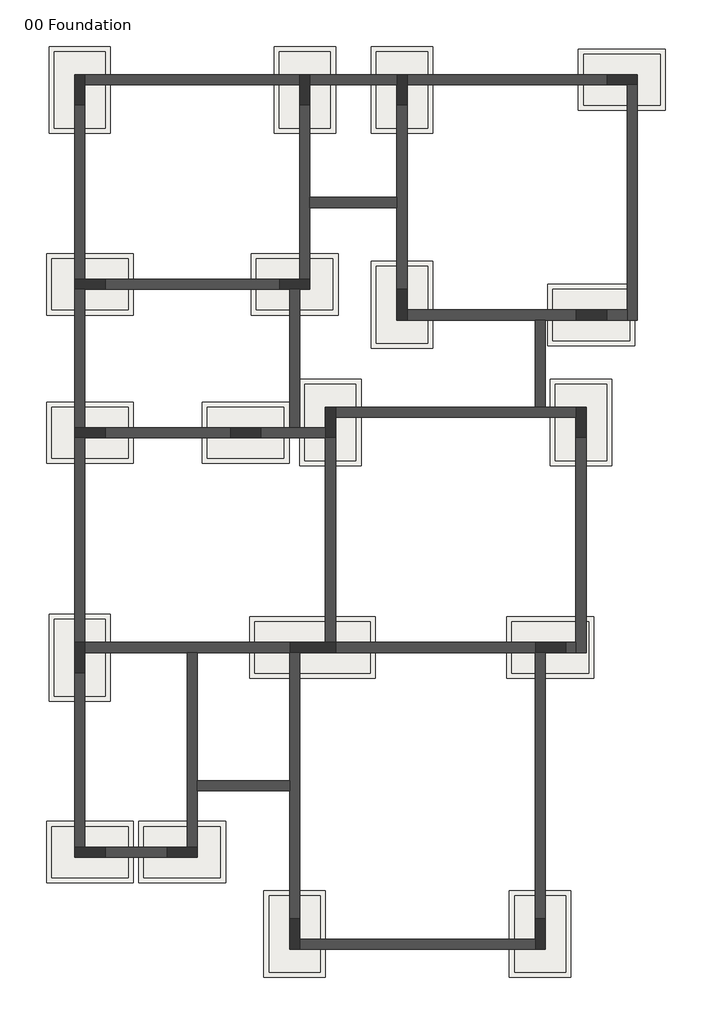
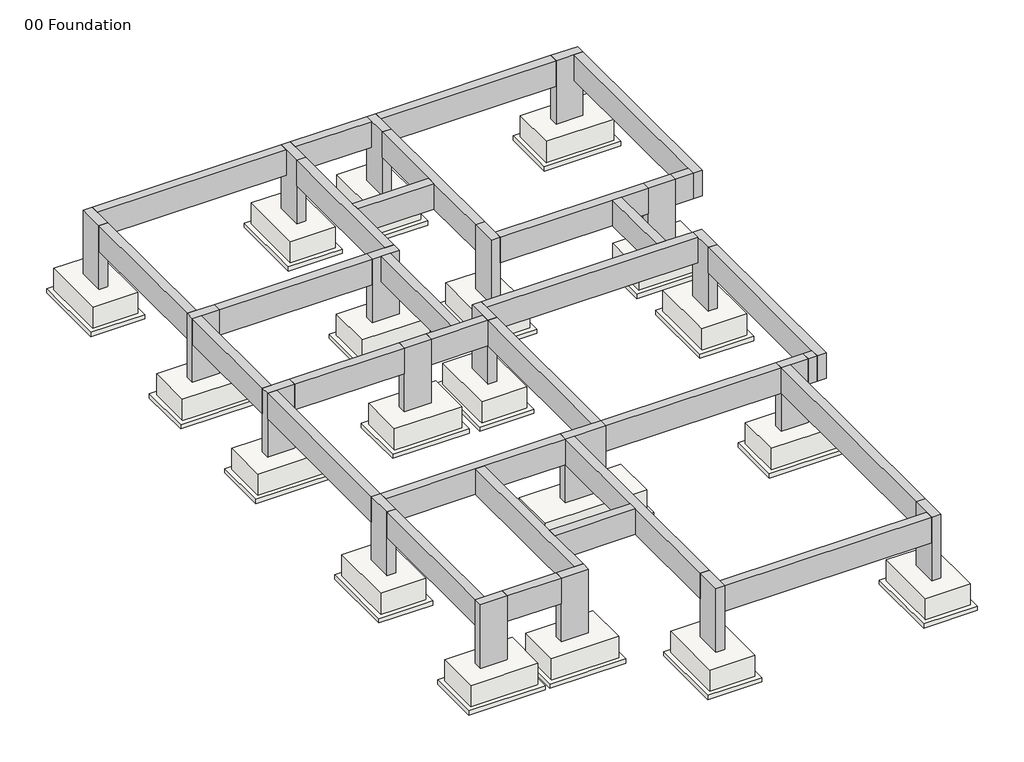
# One storey: 38 slabs, 30 beams, 19 columns.
"""IFC4 building model written with IfcOpenShell, lengths in millimetres."""

from ifc_helpers import new_model, si_unit, frame, origin, place, context, project, spatial, polyline, outline, extrude, faceted_brep, element, save

model = new_model("IFC4")

# Units and contexts
model_context = context("Model", 3, world=origin())
ifc_project = project(units=[si_unit("LENGTHUNIT", "METRE", prefix="MILLI")], contexts=[model_context])

# Site, building, storey
site = spatial("IfcSite", under=ifc_project)
building = spatial("IfcBuilding", under=site)
storey = spatial("IfcBuildingStorey", under=building, Name="00 Foundation", Elevation=-1500.0)

# Beams
placement = place(None, origin())
element("IfcBeam", 1, ObjectType="M_Concrete-Rectangular Beam : GB1- 20 x 60 cm", at=placement, inside=storey, context=model_context, shape_type="SweptSolid", body=[
    extrude(outline(polyline([(698.0737011, 8044.9958345), (698.0737011, 8244.9958345), (4598.0737011, 8244.9958345), (4598.0737011, 8044.9958345), (698.0737011, 8044.9958345)])), frame((0.0, 0.0, -600.0), z_axis=(0.0, 0.0, 1.0), x_axis=(1.0, 0.0, 0.0)), (0.0, 0.0, 1.0), 600.0),
])
element("IfcBeam", 2, ObjectType="M_Concrete-Rectangular Beam : GB1- 20 x 60 cm", at=placement, inside=storey, context=model_context, shape_type="SweptSolid", body=[
    extrude(outline(polyline([(-1201.9262989, 8044.9958345), (-1201.9262989, 8244.9958345), (498.0737011, 8244.9958345), (498.0737011, 8044.9958345), (-1201.9262989, 8044.9958345)])), frame((0.0, 0.0, -600.0), z_axis=(0.0, 0.0, 1.0), x_axis=(1.0, 0.0, 0.0)), (0.0, 0.0, 1.0), 600.0),
])
element("IfcBeam", 3, ObjectType="M_Concrete-Rectangular Beam : GB1- 20 x 60 cm", at=placement, inside=storey, context=model_context, shape_type="SweptSolid", body=[
    extrude(outline(polyline([(-5601.9262989, 8044.9958345), (-5601.9262989, 8244.9958345), (-1401.9262989, 8244.9958345), (-1401.9262989, 8044.9958345), (-5601.9262989, 8044.9958345)])), frame((0.0, 0.0, -600.0), z_axis=(0.0, 0.0, 1.0), x_axis=(1.0, 0.0, 0.0)), (0.0, 0.0, 1.0), 600.0),
])
element("IfcBeam", 4, ObjectType="M_Concrete-Rectangular Beam : GB1- 20 x 60 cm", at=placement, inside=storey, context=model_context, shape_type="SweptSolid", body=[
    extrude(outline(polyline([(-5801.9262989, 7644.9958345), (-5601.9262989, 7644.9958345), (-5601.9262989, 4244.9958345), (-5801.9262989, 4244.9958345), (-5801.9262989, 7644.9958345)])), frame((0.0, 0.0, -600.0), z_axis=(0.0, 0.0, 1.0), x_axis=(1.0, 0.0, 0.0)), (0.0, 0.0, 1.0), 600.0),
])
element("IfcBeam", 5, ObjectType="M_Concrete-Rectangular Beam : GB1- 20 x 60 cm", at=placement, inside=storey, context=model_context, shape_type="SweptSolid", body=[
    extrude(outline(polyline([(-1801.9262989, 4244.9958345), (-1801.9262989, 4044.9958345), (-5201.9262989, 4044.9958345), (-5201.9262989, 4244.9958345), (-1801.9262989, 4244.9958345)])), frame((0.0, 0.0, -600.0), z_axis=(0.0, 0.0, 1.0), x_axis=(1.0, 0.0, 0.0)), (0.0, 0.0, 1.0), 600.0),
])
element("IfcBeam", 6, ObjectType="M_Concrete-Rectangular Beam : GB1- 20 x 60 cm", at=placement, inside=storey, context=model_context, shape_type="SweptSolid", body=[
    extrude(outline(polyline([(-2759.8125017, 1344.9958345), (-2759.8125017, 1144.9958345), (-5201.9262989, 1144.9958345), (-5201.9262989, 1344.9958345), (-2759.8125017, 1344.9958345)])), frame((0.0, 0.0, -600.0), z_axis=(0.0, 0.0, 1.0), x_axis=(1.0, 0.0, 0.0)), (0.0, 0.0, 1.0), 600.0),
])
element("IfcBeam", 7, ObjectType="M_Concrete-Rectangular Beam : GB1- 20 x 60 cm", at=placement, inside=storey, context=model_context, shape_type="Brep", body=[
    faceted_brep([(-901.9262989, 1144.9958345, 0.0), (-901.9262989, 1344.9958345, 0.0), (-1401.9262989, 1344.9958345, 0.0), (-1601.9262989, 1344.9958345, 0.0), (-2159.8125017, 1344.9958345, 0.0), (-2159.8125017, 1144.9958345, 0.0), (-901.9262989, 1144.9958345, -600.0), (-2159.8125017, 1144.9958345, -600.0), (-901.9262989, 1344.9958345, -600.0), (-2159.8125017, 1344.9958345, -600.0), (-1601.9262989, 1344.9958345, -600.0), (-1401.9262989, 1344.9958345, -600.0)], [[[0, 1, 2, 3, 4, 5]], [[6, 0, 5, 7]], [[8, 6, 7, 9, 10, 11]], [[1, 8, 11, 10, 9, 4, 3, 2]], [[1, 0, 6, 8]], [[5, 4, 9, 7]]]),
])
element("IfcBeam", 8, ObjectType="M_Concrete-Rectangular Beam : GB1- 20 x 60 cm", at=placement, inside=storey, context=model_context, shape_type="SweptSolid", body=[
    extrude(outline(polyline([(-1601.9262989, 4044.9958345), (-1401.9262989, 4044.9958345), (-1401.9262989, 1344.9958345), (-1601.9262989, 1344.9958345), (-1601.9262989, 4044.9958345)])), frame((0.0, 0.0, -600.0), z_axis=(0.0, 0.0, 1.0), x_axis=(1.0, 0.0, 0.0)), (0.0, 0.0, 1.0), 600.0),
])
element("IfcBeam", 9, ObjectType="M_Concrete-Rectangular Beam : GB1- 20 x 60 cm", at=placement, inside=storey, context=model_context, shape_type="SweptSolid", body=[
    extrude(outline(polyline([(-5601.9262989, 1344.9958345), (-5801.9262989, 1344.9958345), (-5801.9262989, 4044.9958345), (-5601.9262989, 4044.9958345), (-5601.9262989, 1344.9958345)])), frame((0.0, 0.0, -600.0), z_axis=(0.0, 0.0, 1.0), x_axis=(1.0, 0.0, 0.0)), (0.0, 0.0, 1.0), 600.0),
])
element("IfcBeam", 10, ObjectType="M_Concrete-Rectangular Beam : GB1- 20 x 60 cm", at=placement, inside=storey, context=model_context, shape_type="SweptSolid", body=[
    extrude(outline(polyline([(-5601.9262989, -2855.0041655), (-5801.9262989, -2855.0041655), (-5801.9262989, 1144.9958345), (-5601.9262989, 1144.9958345), (-5601.9262989, -2855.0041655)])), frame((0.0, 0.0, -600.0), z_axis=(0.0, 0.0, 1.0), x_axis=(1.0, 0.0, 0.0)), (0.0, 0.0, 1.0), 600.0),
])
element("IfcBeam", 11, ObjectType="M_Concrete-Rectangular Beam : GB1- 20 x 60 cm", at=placement, inside=storey, context=model_context, shape_type="SweptSolid", body=[
    extrude(outline(polyline([(-5801.9262989, -3455.0041655), (-5601.9262989, -3455.0041655), (-5601.9262989, -6855.0041655), (-5801.9262989, -6855.0041655), (-5801.9262989, -3455.0041655)])), frame((0.0, 0.0, -600.0), z_axis=(0.0, 0.0, 1.0), x_axis=(1.0, 0.0, 0.0)), (0.0, 0.0, 1.0), 600.0),
])
element("IfcBeam", 12, ObjectType="M_Concrete-Rectangular Beam : GB1- 20 x 60 cm", at=placement, inside=storey, context=model_context, shape_type="SweptSolid", body=[
    extrude(outline(polyline([(-4001.9262989, -6855.0041655), (-4001.9262989, -7055.0041655), (-5201.9262989, -7055.0041655), (-5201.9262989, -6855.0041655), (-4001.9262989, -6855.0041655)])), frame((0.0, 0.0, -600.0), z_axis=(0.0, 0.0, 1.0), x_axis=(1.0, 0.0, 0.0)), (0.0, 0.0, 1.0), 600.0),
])
element("IfcBeam", 13, ObjectType="M_Concrete-Rectangular Beam : GB1- 20 x 60 cm", at=placement, inside=storey, context=model_context, shape_type="SweptSolid", body=[
    extrude(outline(polyline([(-1401.9262989, -8855.0041655), (-1401.9262989, -8655.0041655), (3198.0737011, -8655.0041655), (3198.0737011, -8855.0041655), (-1401.9262989, -8855.0041655)])), frame((0.0, 0.0, -600.0), z_axis=(0.0, 0.0, 1.0), x_axis=(1.0, 0.0, 0.0)), (0.0, 0.0, 1.0), 600.0),
])
element("IfcBeam", 14, ObjectType="M_Concrete-Rectangular Beam : GB1- 20 x 60 cm", at=placement, inside=storey, context=model_context, shape_type="SweptSolid", body=[
    extrude(outline(polyline([(3398.0737011, -8255.0041655), (3198.0737011, -8255.0041655), (3198.0737011, -3055.0041655), (3398.0737011, -3055.0041655), (3398.0737011, -8255.0041655)])), frame((0.0, 0.0, -600.0), z_axis=(0.0, 0.0, 1.0), x_axis=(1.0, 0.0, 0.0)), (0.0, 0.0, 1.0), 600.0),
])
element("IfcBeam", 15, ObjectType="M_Concrete-Rectangular Beam : GB1- 20 x 60 cm", at=placement, inside=storey, context=model_context, shape_type="Brep", body=[
    faceted_brep([(3998.0737011, -3055.0041655, 0.0), (4198.0737011, -3055.0041655, 0.0), (4198.0737011, 1144.9958345, 0.0), (3998.0737011, 1144.9958345, 0.0), (3998.0737011, -2855.0041655, 0.0), (3998.0737011, -3055.0041655, -600.0), (3998.0737011, 1144.9958345, -600.0), (3998.0737011, -2855.0041655, -600.0), (4198.0737011, -3055.0041655, -600.0), (4198.0737011, 1144.9958345, -600.0)], [[[0, 1, 2, 3, 4]], [[5, 0, 4, 3, 6, 7]], [[8, 5, 7, 6, 9]], [[1, 8, 9, 2]], [[3, 2, 9, 6]], [[1, 0, 5, 8]]]),
])
element("IfcBeam", 16, ObjectType="M_Concrete-Rectangular Beam : GB1- 20 x 60 cm", at=placement, inside=storey, context=model_context, shape_type="SweptSolid", body=[
    extrude(outline(polyline([(-701.9262989, -2855.0041655), (-901.9262989, -2855.0041655), (-901.9262989, 1144.9958345), (-701.9262989, 1144.9958345), (-701.9262989, -2855.0041655)])), frame((0.0, 0.0, -600.0), z_axis=(0.0, 0.0, 1.0), x_axis=(1.0, 0.0, 0.0)), (0.0, 0.0, 1.0), 600.0),
])
element("IfcBeam", 17, ObjectType="M_Concrete-Rectangular Beam : GB1- 20 x 60 cm", at=placement, inside=storey, context=model_context, shape_type="SweptSolid", body=[
    extrude(outline(polyline([(-1201.9262989, 5644.9958345), (-1201.9262989, 5844.9958345), (498.0737011, 5844.9958345), (498.0737011, 5644.9958345), (-1201.9262989, 5644.9958345)])), frame((0.0, 0.0, -600.0), z_axis=(0.0, 0.0, 1.0), x_axis=(1.0, 0.0, 0.0)), (0.0, 0.0, 1.0), 600.0),
])
element("IfcBeam", 18, ObjectType="M_Concrete-Rectangular Beam : GB1- 20 x 60 cm", at=placement, inside=storey, context=model_context, shape_type="SweptSolid", body=[
    extrude(outline(polyline([(3398.0737011, 1744.9958345), (3198.0737011, 1744.9958345), (3198.0737011, 3444.9958345), (3398.0737011, 3444.9958345), (3398.0737011, 1744.9958345)])), frame((0.0, 0.0, -600.0), z_axis=(0.0, 0.0, 1.0), x_axis=(1.0, 0.0, 0.0)), (0.0, 0.0, 1.0), 600.0),
])
element("IfcBeam", 19, ObjectType="M_Concrete-Rectangular Beam : GB1- 20 x 60 cm", at=placement, inside=storey, context=model_context, shape_type="SweptSolid", body=[
    extrude(outline(polyline([(-3401.9262989, -5755.0041655), (-3401.9262989, -5555.0041655), (-1601.9262989, -5555.0041655), (-1601.9262989, -5755.0041655), (-3401.9262989, -5755.0041655)])), frame((0.0, 0.0, -600.0), z_axis=(0.0, 0.0, 1.0), x_axis=(1.0, 0.0, 0.0)), (0.0, 0.0, 1.0), 600.0),
])
element("IfcBeam", 20, ObjectType="M_Concrete-Rectangular Beam : GB2- 20 x 60 cm", at=placement, inside=storey, context=model_context, shape_type="Brep", body=[
    faceted_brep([(-1201.9262989, 7644.9958345, 0.0), (-1401.9262989, 7644.9958345, 0.0), (-1401.9262989, 4244.9958345, 0.0), (-1201.9262989, 4244.9958345, 0.0), (-1201.9262989, 5644.9958345, 0.0), (-1201.9262989, 5844.9958345, 0.0), (-1401.9262989, 7644.9958345, -600.0), (-1401.9262989, 4244.9958345, -600.0), (-1201.9262989, 7644.9958345, -600.0), (-1201.9262989, 5844.9958345, -600.0), (-1201.9262989, 5644.9958345, -600.0), (-1201.9262989, 4244.9958345, -600.0)], [[[0, 1, 2, 3, 4, 5]], [[1, 6, 7, 2]], [[6, 8, 9, 10, 11, 7]], [[8, 0, 5, 4, 3, 11, 10, 9]], [[1, 0, 8, 6]], [[3, 2, 7, 11]]]),
])
element("IfcBeam", 21, ObjectType="M_Concrete-Rectangular Beam : GB2- 20 x 60 cm", at=placement, inside=storey, context=model_context, shape_type="Brep", body=[
    faceted_brep([(698.0737011, 7644.9958345, 0.0), (498.0737011, 7644.9958345, 0.0), (498.0737011, 5844.9958345, 0.0), (498.0737011, 5644.9958345, 0.0), (498.0737011, 4044.9958345, 0.0), (698.0737011, 4044.9958345, 0.0), (498.0737011, 7644.9958345, -600.0), (498.0737011, 5844.9958345, -600.0), (498.0737011, 5644.9958345, -600.0), (498.0737011, 4044.9958345, -600.0), (698.0737011, 7644.9958345, -600.0), (698.0737011, 4044.9958345, -600.0)], [[[0, 1, 2, 3, 4, 5]], [[1, 6, 7, 8, 9, 4, 3, 2]], [[6, 10, 11, 9, 8, 7]], [[10, 0, 5, 11]], [[1, 0, 10, 6]], [[5, 4, 9, 11]]]),
])
element("IfcBeam", 22, ObjectType="M_Concrete-Rectangular Beam : GB2- 20 x 60 cm", at=placement, inside=storey, context=model_context, shape_type="Brep", body=[
    faceted_brep([(-701.9262989, 1744.9958345, 0.0), (-701.9262989, 1544.9958345, 0.0), (3998.0737011, 1544.9958345, 0.0), (3998.0737011, 1744.9958345, 0.0), (3398.0737011, 1744.9958345, 0.0), (3198.0737011, 1744.9958345, 0.0), (-701.9262989, 1544.9958345, -600.0), (3998.0737011, 1544.9958345, -600.0), (-701.9262989, 1744.9958345, -600.0), (3198.0737011, 1744.9958345, -600.0), (3398.0737011, 1744.9958345, -600.0), (3998.0737011, 1744.9958345, -600.0)], [[[0, 1, 2, 3, 4, 5]], [[1, 6, 7, 2]], [[6, 8, 9, 10, 11, 7]], [[8, 0, 5, 4, 3, 11, 10, 9]], [[1, 0, 8, 6]], [[3, 2, 7, 11]]]),
])
element("IfcBeam", 23, ObjectType="M_Concrete-Rectangular Beam : GB2- 20 x 60 cm", at=placement, inside=storey, context=model_context, shape_type="SweptSolid", body=[
    extrude(outline(polyline([(-701.9262989, -3055.0041655), (-701.9262989, -2855.0041655), (3198.0737011, -2855.0041655), (3198.0737011, -3055.0041655), (-701.9262989, -3055.0041655)])), frame((0.0, 0.0, -600.0), z_axis=(0.0, 0.0, 1.0), x_axis=(1.0, 0.0, 0.0)), (0.0, 0.0, 1.0), 600.0),
])
element("IfcBeam", 24, ObjectType="M_Concrete-Rectangular Beam : GB2- 20 x 60 cm", at=placement, inside=storey, context=model_context, shape_type="Brep", body=[
    faceted_brep([(-1601.9262989, -3055.0041655, 0.0), (-1601.9262989, -2855.0041655, 0.0), (-5601.9262989, -2855.0041655, 0.0), (-5601.9262989, -3055.0041655, 0.0), (-3601.9262989, -3055.0041655, 0.0), (-3401.9262989, -3055.0041655, 0.0), (-1601.9262989, -2855.0041655, -600.0), (-5601.9262989, -2855.0041655, -600.0), (-1601.9262989, -3055.0041655, -600.0), (-3401.9262989, -3055.0041655, -600.0), (-3601.9262989, -3055.0041655, -600.0), (-5601.9262989, -3055.0041655, -600.0)], [[[0, 1, 2, 3, 4, 5]], [[1, 6, 7, 2]], [[6, 8, 9, 10, 11, 7]], [[8, 0, 5, 4, 3, 11, 10, 9]], [[1, 0, 8, 6]], [[3, 2, 7, 11]]]),
])
element("IfcBeam", 25, ObjectType="M_Concrete-Rectangular Beam : GB2- 20 x 60 cm", at=placement, inside=storey, context=model_context, shape_type="Brep", body=[
    faceted_brep([(-3601.9262989, -6855.0041655, 0.0), (-3401.9262989, -6855.0041655, 0.0), (-3401.9262989, -5755.0041655, 0.0), (-3401.9262989, -5555.0041655, 0.0), (-3401.9262989, -3055.0041655, 0.0), (-3601.9262989, -3055.0041655, 0.0), (-3401.9262989, -6855.0041655, -600.0), (-3401.9262989, -5755.0041655, -600.0), (-3401.9262989, -5555.0041655, -600.0), (-3401.9262989, -3055.0041655, -600.0), (-3601.9262989, -6855.0041655, -600.0), (-3601.9262989, -3055.0041655, -600.0)], [[[0, 1, 2, 3, 4, 5]], [[1, 6, 7, 8, 9, 4, 3, 2]], [[6, 10, 11, 9, 8, 7]], [[10, 0, 5, 11]], [[1, 0, 10, 6]], [[5, 4, 9, 11]]]),
])
element("IfcBeam", 26, ObjectType="M_Concrete-Rectangular Beam : GB2- 20 x 60 cm", at=placement, inside=storey, context=model_context, shape_type="Brep", body=[
    faceted_brep([(-1401.9262989, -3055.0041655, 0.0), (-1601.9262989, -3055.0041655, 0.0), (-1601.9262989, -5555.0041655, 0.0), (-1601.9262989, -5755.0041655, 0.0), (-1601.9262989, -8255.0041655, 0.0), (-1401.9262989, -8255.0041655, 0.0), (-1401.9262989, -3055.0041655, -600.0), (-1401.9262989, -8255.0041655, -600.0), (-1601.9262989, -3055.0041655, -600.0), (-1601.9262989, -8255.0041655, -600.0), (-1601.9262989, -5755.0041655, -600.0), (-1601.9262989, -5555.0041655, -600.0)], [[[0, 1, 2, 3, 4, 5]], [[6, 0, 5, 7]], [[8, 6, 7, 9, 10, 11]], [[1, 8, 11, 10, 9, 4, 3, 2]], [[1, 0, 6, 8]], [[5, 4, 9, 7]]]),
])
element("IfcBeam", 27, ObjectType="M_Concrete-Rectangular Beam : GB2- 20 x 60 cm", at=placement, inside=storey, context=model_context, shape_type="Brep", body=[
    faceted_brep([(3998.0737011, 3444.9958345, 0.0), (3998.0737011, 3644.9958345, 0.0), (698.0737011, 3644.9958345, 0.0), (698.0737011, 3444.9958345, 0.0), (3198.0737011, 3444.9958345, 0.0), (3398.0737011, 3444.9958345, 0.0), (3998.0737011, 3644.9958345, -600.0), (698.0737011, 3644.9958345, -600.0), (3998.0737011, 3444.9958345, -600.0), (3398.0737011, 3444.9958345, -600.0), (3198.0737011, 3444.9958345, -600.0), (698.0737011, 3444.9958345, -600.0)], [[[0, 1, 2, 3, 4, 5]], [[1, 6, 7, 2]], [[6, 8, 9, 10, 11, 7]], [[8, 0, 5, 4, 3, 11, 10, 9]], [[1, 0, 8, 6]], [[3, 2, 7, 11]]]),
])
element("IfcBeam", 28, ObjectType="M_Concrete-Rectangular Beam : GB2- 20 x 60 cm", at=placement, inside=storey, context=model_context, shape_type="Brep", body=[
    faceted_brep([(4998.0737011, 3444.9958345, 0.0), (5198.0737011, 3444.9958345, 0.0), (5198.0737011, 8044.9958345, 0.0), (4998.0737011, 8044.9958345, 0.0), (4998.0737011, 3644.9958345, 0.0), (4998.0737011, 3444.9958345, -600.0), (4998.0737011, 8044.9958345, -600.0), (4998.0737011, 3644.9958345, -600.0), (5198.0737011, 3444.9958345, -600.0), (5198.0737011, 8044.9958345, -600.0)], [[[0, 1, 2, 3, 4]], [[5, 0, 4, 3, 6, 7]], [[8, 5, 7, 6, 9]], [[1, 8, 9, 2]], [[3, 2, 9, 6]], [[1, 0, 5, 8]]]),
])
element("IfcBeam", 29, ObjectType="M_Concrete-Rectangular Beam : GBC- 20 x 60 cm", at=placement, inside=storey, context=model_context, shape_type="SweptSolid", body=[
    extrude(outline(polyline([(3798.0737011, -3055.0041655), (3798.0737011, -2855.0041655), (3998.0737011, -2855.0041655), (3998.0737011, -3055.0041655), (3798.0737011, -3055.0041655)])), frame((0.0, 0.0, -600.0), z_axis=(0.0, 0.0, 1.0), x_axis=(1.0, 0.0, 0.0)), (0.0, 0.0, 1.0), 600.0),
])
element("IfcBeam", 30, ObjectType="M_Concrete-Rectangular Beam : GBC- 20 x 60 cm", at=placement, inside=storey, context=model_context, shape_type="SweptSolid", body=[
    extrude(outline(polyline([(4598.0737011, 3444.9958345), (4598.0737011, 3644.9958345), (4998.0737011, 3644.9958345), (4998.0737011, 3444.9958345), (4598.0737011, 3444.9958345)])), frame((0.0, 0.0, -600.0), z_axis=(0.0, 0.0, 1.0), x_axis=(1.0, 0.0, 0.0)), (0.0, 0.0, 1.0), 600.0),
])

# Columns
element("IfcColumn", 31, ObjectType="M_Concrete-Rectangular-Column : 20 x 60 cm", at=placement, inside=storey, context=model_context, shape_type="SweptSolid", body=[
    extrude(outline(polyline([(-5601.9262989, 8244.9958345), (-5601.9262989, 7644.9958345), (-5801.9262989, 7644.9958345), (-5801.9262989, 8244.9958345), (-5601.9262989, 8244.9958345)])), frame((0.0, 0.0, -1500.0), z_axis=(0.0, 0.0, 1.0), x_axis=(1.0, 0.0, 0.0)), (0.0, 0.0, 1.0), 1500.0),
])
element("IfcColumn", 32, ObjectType="M_Concrete-Rectangular-Column : 20 x 60 cm", at=placement, inside=storey, context=model_context, shape_type="SweptSolid", body=[
    extrude(outline(polyline([(-1201.9262989, 8244.9958345), (-1201.9262989, 7644.9958345), (-1401.9262989, 7644.9958345), (-1401.9262989, 8244.9958345), (-1201.9262989, 8244.9958345)])), frame((0.0, 0.0, -1500.0), z_axis=(0.0, 0.0, 1.0), x_axis=(1.0, 0.0, 0.0)), (0.0, 0.0, 1.0), 1500.0),
])
element("IfcColumn", 33, ObjectType="M_Concrete-Rectangular-Column : 20 x 60 cm", at=placement, inside=storey, context=model_context, shape_type="SweptSolid", body=[
    extrude(outline(polyline([(698.0737011, 8244.9958345), (698.0737011, 7644.9958345), (498.0737011, 7644.9958345), (498.0737011, 8244.9958345), (698.0737011, 8244.9958345)])), frame((0.0, 0.0, -1500.0), z_axis=(0.0, 0.0, 1.0), x_axis=(1.0, 0.0, 0.0)), (0.0, 0.0, 1.0), 1500.0),
])
element("IfcColumn", 34, ObjectType="M_Concrete-Rectangular-Column : 20 x 60 cm", at=placement, inside=storey, context=model_context, shape_type="SweptSolid", body=[
    extrude(outline(polyline([(4598.0737011, 8244.9958345), (5198.0737011, 8244.9958345), (5198.0737011, 8044.9958345), (4598.0737011, 8044.9958345), (4598.0737011, 8244.9958345)])), frame((0.0, 0.0, -1500.0), z_axis=(0.0, 0.0, 1.0), x_axis=(1.0, 0.0, 0.0)), (0.0, 0.0, 1.0), 1500.0),
])
element("IfcColumn", 35, ObjectType="M_Concrete-Rectangular-Column : 20 x 60 cm", at=placement, inside=storey, context=model_context, shape_type="SweptSolid", body=[
    extrude(outline(polyline([(3998.0737011, 3644.9958345), (4598.0737011, 3644.9958345), (4598.0737011, 3444.9958345), (3998.0737011, 3444.9958345), (3998.0737011, 3644.9958345)])), frame((0.0, 0.0, -1500.0), z_axis=(0.0, 0.0, 1.0), x_axis=(1.0, 0.0, 0.0)), (0.0, 0.0, 1.0), 1500.0),
])
element("IfcColumn", 36, ObjectType="M_Concrete-Rectangular-Column : 20 x 60 cm", at=placement, inside=storey, context=model_context, shape_type="SweptSolid", body=[
    extrude(outline(polyline([(498.0737011, 3444.9958345), (498.0737011, 4044.9958345), (698.0737011, 4044.9958345), (698.0737011, 3444.9958345), (498.0737011, 3444.9958345)])), frame((0.0, 0.0, -1500.0), z_axis=(0.0, 0.0, 1.0), x_axis=(1.0, 0.0, 0.0)), (0.0, 0.0, 1.0), 1500.0),
])
element("IfcColumn", 37, ObjectType="M_Concrete-Rectangular-Column : 20 x 60 cm", at=placement, inside=storey, context=model_context, shape_type="SweptSolid", body=[
    extrude(outline(polyline([(-1201.9262989, 4044.9958345), (-1801.9262989, 4044.9958345), (-1801.9262989, 4244.9958345), (-1201.9262989, 4244.9958345), (-1201.9262989, 4044.9958345)])), frame((0.0, 0.0, -1500.0), z_axis=(0.0, 0.0, 1.0), x_axis=(1.0, 0.0, 0.0)), (0.0, 0.0, 1.0), 1500.0),
])
element("IfcColumn", 38, ObjectType="M_Concrete-Rectangular-Column : 20 x 60 cm", at=placement, inside=storey, context=model_context, shape_type="SweptSolid", body=[
    extrude(outline(polyline([(-701.9262989, 1744.9958345), (-701.9262989, 1144.9958345), (-901.9262989, 1144.9958345), (-901.9262989, 1744.9958345), (-701.9262989, 1744.9958345)])), frame((0.0, 0.0, -1500.0), z_axis=(0.0, 0.0, 1.0), x_axis=(1.0, 0.0, 0.0)), (0.0, 0.0, 1.0), 1500.0),
])
element("IfcColumn", 39, ObjectType="M_Concrete-Rectangular-Column : 20 x 60 cm", at=placement, inside=storey, context=model_context, shape_type="SweptSolid", body=[
    extrude(outline(polyline([(4198.0737011, 1744.9958345), (4198.0737011, 1144.9958345), (3998.0737011, 1144.9958345), (3998.0737011, 1744.9958345), (4198.0737011, 1744.9958345)])), frame((0.0, 0.0, -1500.0), z_axis=(0.0, 0.0, 1.0), x_axis=(1.0, 0.0, 0.0)), (0.0, 0.0, 1.0), 1500.0),
])
element("IfcColumn", 40, ObjectType="M_Concrete-Rectangular-Column : 20 x 60 cm", at=placement, inside=storey, context=model_context, shape_type="SweptSolid", body=[
    extrude(outline(polyline([(-5601.9262989, -2855.0041655), (-5601.9262989, -3455.0041655), (-5801.9262989, -3455.0041655), (-5801.9262989, -2855.0041655), (-5601.9262989, -2855.0041655)])), frame((0.0, 0.0, -1500.0), z_axis=(0.0, 0.0, 1.0), x_axis=(1.0, 0.0, 0.0)), (0.0, 0.0, 1.0), 1500.0),
])
element("IfcColumn", 41, ObjectType="M_Concrete-Rectangular-Column : 20 x 60 cm", at=placement, inside=storey, context=model_context, shape_type="SweptSolid", body=[
    extrude(outline(polyline([(-1401.9262989, -8255.0041655), (-1401.9262989, -8855.0041655), (-1601.9262989, -8855.0041655), (-1601.9262989, -8255.0041655), (-1401.9262989, -8255.0041655)])), frame((0.0, 0.0, -1500.0), z_axis=(0.0, 0.0, 1.0), x_axis=(1.0, 0.0, 0.0)), (0.0, 0.0, 1.0), 1500.0),
])
element("IfcColumn", 42, ObjectType="M_Concrete-Rectangular-Column : 20 x 60 cm", at=placement, inside=storey, context=model_context, shape_type="SweptSolid", body=[
    extrude(outline(polyline([(3398.0737011, -8255.0041655), (3398.0737011, -8855.0041655), (3198.0737011, -8855.0041655), (3198.0737011, -8255.0041655), (3398.0737011, -8255.0041655)])), frame((0.0, 0.0, -1500.0), z_axis=(0.0, 0.0, 1.0), x_axis=(1.0, 0.0, 0.0)), (0.0, 0.0, 1.0), 1500.0),
])
element("IfcColumn", 43, ObjectType="M_Concrete-Rectangular-Column : 20 x 60 cm", at=placement, inside=storey, context=model_context, shape_type="SweptSolid", body=[
    extrude(outline(polyline([(-4001.9262989, -6855.0041655), (-3401.9262989, -6855.0041655), (-3401.9262989, -7055.0041655), (-4001.9262989, -7055.0041655), (-4001.9262989, -6855.0041655)])), frame((0.0, 0.0, -1500.0), z_axis=(0.0, 0.0, 1.0), x_axis=(1.0, 0.0, 0.0)), (0.0, 0.0, 1.0), 1500.0),
])
element("IfcColumn", 44, ObjectType="M_Concrete-Rectangular-Column : 20 x 60 cm", at=placement, inside=storey, context=model_context, shape_type="SweptSolid", body=[
    extrude(outline(polyline([(-5801.9262989, -6855.0041655), (-5201.9262989, -6855.0041655), (-5201.9262989, -7055.0041655), (-5801.9262989, -7055.0041655), (-5801.9262989, -6855.0041655)])), frame((0.0, 0.0, -1500.0), z_axis=(0.0, 0.0, 1.0), x_axis=(1.0, 0.0, 0.0)), (0.0, 0.0, 1.0), 1500.0),
])
element("IfcColumn", 45, ObjectType="M_Concrete-Rectangular-Column : 20 x 60 cm", at=placement, inside=storey, context=model_context, shape_type="SweptSolid", body=[
    extrude(outline(polyline([(3198.0737011, -2855.0041655), (3798.0737011, -2855.0041655), (3798.0737011, -3055.0041655), (3198.0737011, -3055.0041655), (3198.0737011, -2855.0041655)])), frame((0.0, 0.0, -1500.0), z_axis=(0.0, 0.0, 1.0), x_axis=(1.0, 0.0, 0.0)), (0.0, 0.0, 1.0), 1500.0),
])
element("IfcColumn", 46, ObjectType="M_Concrete-Rectangular-Column : 20 x 60 cm", at=placement, inside=storey, context=model_context, shape_type="SweptSolid", body=[
    extrude(outline(polyline([(-2759.8125017, 1344.9958345), (-2159.8125017, 1344.9958345), (-2159.8125017, 1144.9958345), (-2759.8125017, 1144.9958345), (-2759.8125017, 1344.9958345)])), frame((0.0, 0.0, -1500.0), z_axis=(0.0, 0.0, 1.0), x_axis=(1.0, 0.0, 0.0)), (0.0, 0.0, 1.0), 1500.0),
])
element("IfcColumn", 47, ObjectType="M_Concrete-Rectangular-Column : 20 x 60 cm", at=placement, inside=storey, context=model_context, shape_type="SweptSolid", body=[
    extrude(outline(polyline([(-5801.9262989, 1344.9958345), (-5201.9262989, 1344.9958345), (-5201.9262989, 1144.9958345), (-5801.9262989, 1144.9958345), (-5801.9262989, 1344.9958345)])), frame((0.0, 0.0, -1500.0), z_axis=(0.0, 0.0, 1.0), x_axis=(1.0, 0.0, 0.0)), (0.0, 0.0, 1.0), 1500.0),
])
element("IfcColumn", 48, ObjectType="M_Concrete-Rectangular-Column : 20 x 60 cm", at=placement, inside=storey, context=model_context, shape_type="SweptSolid", body=[
    extrude(outline(polyline([(-5801.9262989, 4244.9958345), (-5201.9262989, 4244.9958345), (-5201.9262989, 4044.9958345), (-5801.9262989, 4044.9958345), (-5801.9262989, 4244.9958345)])), frame((0.0, 0.0, -1500.0), z_axis=(0.0, 0.0, 1.0), x_axis=(1.0, 0.0, 0.0)), (0.0, 0.0, 1.0), 1500.0),
])
element("IfcColumn", 49, ObjectType="M_Concrete-Rectangular-Column : 20 x 90 cm", at=placement, inside=storey, context=model_context, shape_type="SweptSolid", body=[
    extrude(outline(polyline([(-1601.9262989, -2855.0041655), (-701.9262989, -2855.0041655), (-701.9262989, -3055.0041655), (-1601.9262989, -3055.0041655), (-1601.9262989, -2855.0041655)])), frame((0.0, 0.0, -1500.0), z_axis=(0.0, 0.0, 1.0), x_axis=(1.0, 0.0, 0.0)), (0.0, 0.0, 1.0), 1500.0),
])

# Slabs
element("IfcSlab", 50, ObjectType="M_Footing-Rectangular : 1 x 1.5 m", at=placement, inside=storey, context=model_context, shape_type="SweptSolid", body=[
    extrude(outline(polyline([(-5201.9262989, 8694.9958345), (-5201.9262989, 7194.9958345), (-6201.9262989, 7194.9958345), (-6201.9262989, 8694.9958345), (-5201.9262989, 8694.9958345)])), frame((0.0, 0.0, -2000.0), z_axis=(0.0, 0.0, 1.0), x_axis=(1.0, 0.0, 0.0)), (0.0, 0.0, 1.0), 500.0),
])
element("IfcSlab", 51, ObjectType="M_Footing-Rectangular : 1 x 1.5 m", at=placement, inside=storey, context=model_context, shape_type="SweptSolid", body=[
    extrude(outline(polyline([(-801.9262989, 8694.9958345), (-801.9262989, 7194.9958345), (-1801.9262989, 7194.9958345), (-1801.9262989, 8694.9958345), (-801.9262989, 8694.9958345)])), frame((0.0, 0.0, -2000.0), z_axis=(0.0, 0.0, 1.0), x_axis=(1.0, 0.0, 0.0)), (0.0, 0.0, 1.0), 500.0),
])
element("IfcSlab", 52, ObjectType="M_Footing-Rectangular : 1 x 1.5 m", at=placement, inside=storey, context=model_context, shape_type="SweptSolid", body=[
    extrude(outline(polyline([(1098.0737011, 8694.9958345), (1098.0737011, 7194.9958345), (98.0737011, 7194.9958345), (98.0737011, 8694.9958345), (1098.0737011, 8694.9958345)])), frame((0.0, 0.0, -2000.0), z_axis=(0.0, 0.0, 1.0), x_axis=(1.0, 0.0, 0.0)), (0.0, 0.0, 1.0), 500.0),
])
element("IfcSlab", 53, ObjectType="M_Footing-Rectangular : 1 x 1.5 m", at=placement, inside=storey, context=model_context, shape_type="SweptSolid", body=[
    extrude(outline(polyline([(4148.0737011, 8644.9958345), (5648.0737011, 8644.9958345), (5648.0737011, 7644.9958345), (4148.0737011, 7644.9958345), (4148.0737011, 8644.9958345)])), frame((0.0, 0.0, -2000.0), z_axis=(0.0, 0.0, 1.0), x_axis=(1.0, 0.0, 0.0)), (0.0, 0.0, 1.0), 500.0),
])
element("IfcSlab", 54, ObjectType="M_Footing-Rectangular : 1 x 1.5 m", at=placement, inside=storey, context=model_context, shape_type="SweptSolid", body=[
    extrude(outline(polyline([(98.0737011, 2994.9958345), (98.0737011, 4494.9958345), (1098.0737011, 4494.9958345), (1098.0737011, 2994.9958345), (98.0737011, 2994.9958345)])), frame((0.0, 0.0, -2000.0), z_axis=(0.0, 0.0, 1.0), x_axis=(1.0, 0.0, 0.0)), (0.0, 0.0, 1.0), 500.0),
])
element("IfcSlab", 55, ObjectType="M_Footing-Rectangular : 1 x 1.5 m", at=placement, inside=storey, context=model_context, shape_type="SweptSolid", body=[
    extrude(outline(polyline([(-751.9262989, 3644.9958345), (-2251.9262989, 3644.9958345), (-2251.9262989, 4644.9958345), (-751.9262989, 4644.9958345), (-751.9262989, 3644.9958345)])), frame((0.0, 0.0, -2000.0), z_axis=(0.0, 0.0, 1.0), x_axis=(1.0, 0.0, 0.0)), (0.0, 0.0, 1.0), 500.0),
])
element("IfcSlab", 56, ObjectType="M_Footing-Rectangular : 1 x 1.5 m", at=placement, inside=storey, context=model_context, shape_type="SweptSolid", body=[
    extrude(outline(polyline([(-4751.9262989, 3644.9958345), (-6251.9262989, 3644.9958345), (-6251.9262989, 4644.9958345), (-4751.9262989, 4644.9958345), (-4751.9262989, 3644.9958345)])), frame((0.0, 0.0, -2000.0), z_axis=(0.0, 0.0, 1.0), x_axis=(1.0, 0.0, 0.0)), (0.0, 0.0, 1.0), 500.0),
])
element("IfcSlab", 57, ObjectType="M_Footing-Rectangular : 1 x 1.5 m", at=placement, inside=storey, context=model_context, shape_type="SweptSolid", body=[
    extrude(outline(polyline([(-4751.9262989, 744.9958345), (-6251.9262989, 744.9958345), (-6251.9262989, 1744.9958345), (-4751.9262989, 1744.9958345), (-4751.9262989, 744.9958345)])), frame((0.0, 0.0, -2000.0), z_axis=(0.0, 0.0, 1.0), x_axis=(1.0, 0.0, 0.0)), (0.0, 0.0, 1.0), 500.0),
])
element("IfcSlab", 58, ObjectType="M_Footing-Rectangular : 1 x 1.5 m", at=placement, inside=storey, context=model_context, shape_type="SweptSolid", body=[
    extrude(outline(polyline([(-1709.8125017, 744.9958345), (-3209.8125017, 744.9958345), (-3209.8125017, 1744.9958345), (-1709.8125017, 1744.9958345), (-1709.8125017, 744.9958345)])), frame((0.0, 0.0, -2000.0), z_axis=(0.0, 0.0, 1.0), x_axis=(1.0, 0.0, 0.0)), (0.0, 0.0, 1.0), 500.0),
])
element("IfcSlab", 59, ObjectType="M_Footing-Rectangular : 1 x 1.5 m", at=placement, inside=storey, context=model_context, shape_type="SweptSolid", body=[
    extrude(outline(polyline([(-301.9262989, 2194.9958345), (-301.9262989, 694.9958345), (-1301.9262989, 694.9958345), (-1301.9262989, 2194.9958345), (-301.9262989, 2194.9958345)])), frame((0.0, 0.0, -2000.0), z_axis=(0.0, 0.0, 1.0), x_axis=(1.0, 0.0, 0.0)), (0.0, 0.0, 1.0), 500.0),
])
element("IfcSlab", 60, ObjectType="M_Footing-Rectangular : 1 x 1.5 m", at=placement, inside=storey, context=model_context, shape_type="SweptSolid", body=[
    extrude(outline(polyline([(4598.0737011, 2194.9958345), (4598.0737011, 694.9958345), (3598.0737011, 694.9958345), (3598.0737011, 2194.9958345), (4598.0737011, 2194.9958345)])), frame((0.0, 0.0, -2000.0), z_axis=(0.0, 0.0, 1.0), x_axis=(1.0, 0.0, 0.0)), (0.0, 0.0, 1.0), 500.0),
])
element("IfcSlab", 61, ObjectType="M_Footing-Rectangular : 1 x 1.5 m", at=placement, inside=storey, context=model_context, shape_type="SweptSolid", body=[
    extrude(outline(polyline([(2748.0737011, -2455.0041655), (4248.0737011, -2455.0041655), (4248.0737011, -3455.0041655), (2748.0737011, -3455.0041655), (2748.0737011, -2455.0041655)])), frame((0.0, 0.0, -2000.0), z_axis=(0.0, 0.0, 1.0), x_axis=(1.0, 0.0, 0.0)), (0.0, 0.0, 1.0), 500.0),
])
element("IfcSlab", 62, ObjectType="M_Footing-Rectangular : 1 x 1.5 m", at=placement, inside=storey, context=model_context, shape_type="SweptSolid", body=[
    extrude(outline(polyline([(-6201.9262989, -3905.0041655), (-6201.9262989, -2405.0041655), (-5201.9262989, -2405.0041655), (-5201.9262989, -3905.0041655), (-6201.9262989, -3905.0041655)])), frame((0.0, 0.0, -2000.0), z_axis=(0.0, 0.0, 1.0), x_axis=(1.0, 0.0, 0.0)), (0.0, 0.0, 1.0), 500.0),
])
element("IfcSlab", 63, ObjectType="M_Footing-Rectangular : 1 x 1.5 m", at=placement, inside=storey, context=model_context, shape_type="SweptSolid", body=[
    extrude(outline(polyline([(-4751.9262989, -7455.0041655), (-6251.9262989, -7455.0041655), (-6251.9262989, -6455.0041655), (-4751.9262989, -6455.0041655), (-4751.9262989, -7455.0041655)])), frame((0.0, 0.0, -2000.0), z_axis=(0.0, 0.0, 1.0), x_axis=(1.0, 0.0, 0.0)), (0.0, 0.0, 1.0), 500.0),
])
element("IfcSlab", 64, ObjectType="M_Footing-Rectangular : 1 x 1.5 m", at=placement, inside=storey, context=model_context, shape_type="SweptSolid", body=[
    extrude(outline(polyline([(-2951.9262989, -7455.0041655), (-4451.9262989, -7455.0041655), (-4451.9262989, -6455.0041655), (-2951.9262989, -6455.0041655), (-2951.9262989, -7455.0041655)])), frame((0.0, 0.0, -2000.0), z_axis=(0.0, 0.0, 1.0), x_axis=(1.0, 0.0, 0.0)), (0.0, 0.0, 1.0), 500.0),
])
element("IfcSlab", 65, ObjectType="M_Footing-Rectangular : 1 x 1.5 m", at=placement, inside=storey, context=model_context, shape_type="SweptSolid", body=[
    extrude(outline(polyline([(-1001.9262989, -7805.0041655), (-1001.9262989, -9305.0041655), (-2001.9262989, -9305.0041655), (-2001.9262989, -7805.0041655), (-1001.9262989, -7805.0041655)])), frame((0.0, 0.0, -2000.0), z_axis=(0.0, 0.0, 1.0), x_axis=(1.0, 0.0, 0.0)), (0.0, 0.0, 1.0), 500.0),
])
element("IfcSlab", 66, ObjectType="M_Footing-Rectangular : 1 x 1.5 m", at=placement, inside=storey, context=model_context, shape_type="SweptSolid", body=[
    extrude(outline(polyline([(3798.0737011, -7805.0041655), (3798.0737011, -9305.0041655), (2798.0737011, -9305.0041655), (2798.0737011, -7805.0041655), (3798.0737011, -7805.0041655)])), frame((0.0, 0.0, -2000.0), z_axis=(0.0, 0.0, 1.0), x_axis=(1.0, 0.0, 0.0)), (0.0, 0.0, 1.0), 500.0),
])
element("IfcSlab", 67, ObjectType="M_Footing-Rectangular : 1 x 1.5 m", at=placement, inside=storey, context=model_context, shape_type="SweptSolid", body=[
    extrude(outline(polyline([(3548.0737011, 4044.9958345), (5048.0737011, 4044.9958345), (5048.0737011, 3044.9958345), (3548.0737011, 3044.9958345), (3548.0737011, 4044.9958345)])), frame((0.0, 0.0, -2000.0), z_axis=(0.0, 0.0, 1.0), x_axis=(1.0, 0.0, 0.0)), (0.0, 0.0, 1.0), 500.0),
])
element("IfcSlab", 68, ObjectType="M_Footing-Rectangular : 1 x 2.25 m", at=placement, inside=storey, context=model_context, shape_type="SweptSolid", body=[
    extrude(outline(polyline([(-2276.9262989, -2455.0041655), (-26.9262989, -2455.0041655), (-26.9262989, -3455.0041655), (-2276.9262989, -3455.0041655), (-2276.9262989, -2455.0041655)])), frame((0.0, 0.0, -2000.0), z_axis=(0.0, 0.0, 1.0), x_axis=(1.0, 0.0, 0.0)), (0.0, 0.0, 1.0), 500.0),
])
element("IfcSlab", 69, ObjectType="M_Footing-Rectangular : pc 1.2 x 1.7", at=placement, inside=storey, context=model_context, shape_type="SweptSolid", body=[
    extrude(outline(polyline([(-5101.9262989, 8794.9958345), (-5101.9262989, 7094.9958345), (-6301.9262989, 7094.9958345), (-6301.9262989, 8794.9958345), (-5101.9262989, 8794.9958345)])), frame((0.0, 0.0, -2100.0), z_axis=(0.0, 0.0, 1.0), x_axis=(1.0, 0.0, 0.0)), (0.0, 0.0, 1.0), 100.0),
])
element("IfcSlab", 70, ObjectType="M_Footing-Rectangular : pc 1.2 x 1.7", at=placement, inside=storey, context=model_context, shape_type="SweptSolid", body=[
    extrude(outline(polyline([(-701.9262989, 8794.9958345), (-701.9262989, 7094.9958345), (-1901.9262989, 7094.9958345), (-1901.9262989, 8794.9958345), (-701.9262989, 8794.9958345)])), frame((0.0, 0.0, -2100.0), z_axis=(0.0, 0.0, 1.0), x_axis=(1.0, 0.0, 0.0)), (0.0, 0.0, 1.0), 100.0),
])
element("IfcSlab", 71, ObjectType="M_Footing-Rectangular : pc 1.2 x 1.7", at=placement, inside=storey, context=model_context, shape_type="SweptSolid", body=[
    extrude(outline(polyline([(1198.0737011, 8794.9958345), (1198.0737011, 7094.9958345), (-1.9262989, 7094.9958345), (-1.9262989, 8794.9958345), (1198.0737011, 8794.9958345)])), frame((0.0, 0.0, -2100.0), z_axis=(0.0, 0.0, 1.0), x_axis=(1.0, 0.0, 0.0)), (0.0, 0.0, 1.0), 100.0),
])
element("IfcSlab", 72, ObjectType="M_Footing-Rectangular : pc 1.2 x 1.7", at=placement, inside=storey, context=model_context, shape_type="SweptSolid", body=[
    extrude(outline(polyline([(4048.0737011, 8744.9958345), (5748.0737011, 8744.9958345), (5748.0737011, 7544.9958345), (4048.0737011, 7544.9958345), (4048.0737011, 8744.9958345)])), frame((0.0, 0.0, -2100.0), z_axis=(0.0, 0.0, 1.0), x_axis=(1.0, 0.0, 0.0)), (0.0, 0.0, 1.0), 100.0),
])
element("IfcSlab", 73, ObjectType="M_Footing-Rectangular : pc 1.2 x 1.7", at=placement, inside=storey, context=model_context, shape_type="SweptSolid", body=[
    extrude(outline(polyline([(3448.0737011, 4144.9958345), (5148.0737011, 4144.9958345), (5148.0737011, 2944.9958345), (3448.0737011, 2944.9958345), (3448.0737011, 4144.9958345)])), frame((0.0, 0.0, -2100.0), z_axis=(0.0, 0.0, 1.0), x_axis=(1.0, 0.0, 0.0)), (0.0, 0.0, 1.0), 100.0),
])
element("IfcSlab", 74, ObjectType="M_Footing-Rectangular : pc 1.2 x 1.7", at=placement, inside=storey, context=model_context, shape_type="SweptSolid", body=[
    extrude(outline(polyline([(-1.9262989, 2894.9958345), (-1.9262989, 4594.9958345), (1198.0737011, 4594.9958345), (1198.0737011, 2894.9958345), (-1.9262989, 2894.9958345)])), frame((0.0, 0.0, -2100.0), z_axis=(0.0, 0.0, 1.0), x_axis=(1.0, 0.0, 0.0)), (0.0, 0.0, 1.0), 100.0),
])
element("IfcSlab", 75, ObjectType="M_Footing-Rectangular : pc 1.2 x 1.7", at=placement, inside=storey, context=model_context, shape_type="SweptSolid", body=[
    extrude(outline(polyline([(4698.0737011, 2294.9958345), (4698.0737011, 594.9958345), (3498.0737011, 594.9958345), (3498.0737011, 2294.9958345), (4698.0737011, 2294.9958345)])), frame((0.0, 0.0, -2100.0), z_axis=(0.0, 0.0, 1.0), x_axis=(1.0, 0.0, 0.0)), (0.0, 0.0, 1.0), 100.0),
])
element("IfcSlab", 76, ObjectType="M_Footing-Rectangular : pc 1.2 x 1.7", at=placement, inside=storey, context=model_context, shape_type="SweptSolid", body=[
    extrude(outline(polyline([(-201.9262989, 2294.9958345), (-201.9262989, 594.9958345), (-1401.9262989, 594.9958345), (-1401.9262989, 2294.9958345), (-201.9262989, 2294.9958345)])), frame((0.0, 0.0, -2100.0), z_axis=(0.0, 0.0, 1.0), x_axis=(1.0, 0.0, 0.0)), (0.0, 0.0, 1.0), 100.0),
])
element("IfcSlab", 77, ObjectType="M_Footing-Rectangular : pc 1.2 x 1.7", at=placement, inside=storey, context=model_context, shape_type="SweptSolid", body=[
    extrude(outline(polyline([(-3309.8125017, 1844.9958345), (-1609.8125017, 1844.9958345), (-1609.8125017, 644.9958345), (-3309.8125017, 644.9958345), (-3309.8125017, 1844.9958345)])), frame((0.0, 0.0, -2100.0), z_axis=(0.0, 0.0, 1.0), x_axis=(1.0, 0.0, 0.0)), (0.0, 0.0, 1.0), 100.0),
])
element("IfcSlab", 78, ObjectType="M_Footing-Rectangular : pc 1.2 x 1.7", at=placement, inside=storey, context=model_context, shape_type="SweptSolid", body=[
    extrude(outline(polyline([(-6351.9262989, 1844.9958345), (-4651.9262989, 1844.9958345), (-4651.9262989, 644.9958345), (-6351.9262989, 644.9958345), (-6351.9262989, 1844.9958345)])), frame((0.0, 0.0, -2100.0), z_axis=(0.0, 0.0, 1.0), x_axis=(1.0, 0.0, 0.0)), (0.0, 0.0, 1.0), 100.0),
])
element("IfcSlab", 79, ObjectType="M_Footing-Rectangular : pc 1.2 x 1.7", at=placement, inside=storey, context=model_context, shape_type="SweptSolid", body=[
    extrude(outline(polyline([(-6351.9262989, 4744.9958345), (-4651.9262989, 4744.9958345), (-4651.9262989, 3544.9958345), (-6351.9262989, 3544.9958345), (-6351.9262989, 4744.9958345)])), frame((0.0, 0.0, -2100.0), z_axis=(0.0, 0.0, 1.0), x_axis=(1.0, 0.0, 0.0)), (0.0, 0.0, 1.0), 100.0),
])
element("IfcSlab", 80, ObjectType="M_Footing-Rectangular : pc 1.2 x 1.7", at=placement, inside=storey, context=model_context, shape_type="SweptSolid", body=[
    extrude(outline(polyline([(-2351.9262989, 4744.9958345), (-651.9262989, 4744.9958345), (-651.9262989, 3544.9958345), (-2351.9262989, 3544.9958345), (-2351.9262989, 4744.9958345)])), frame((0.0, 0.0, -2100.0), z_axis=(0.0, 0.0, 1.0), x_axis=(1.0, 0.0, 0.0)), (0.0, 0.0, 1.0), 100.0),
])
element("IfcSlab", 81, ObjectType="M_Footing-Rectangular : pc 1.2 x 1.7", at=placement, inside=storey, context=model_context, shape_type="SweptSolid", body=[
    extrude(outline(polyline([(-6301.9262989, -4005.0041655), (-6301.9262989, -2305.0041655), (-5101.9262989, -2305.0041655), (-5101.9262989, -4005.0041655), (-6301.9262989, -4005.0041655)])), frame((0.0, 0.0, -2100.0), z_axis=(0.0, 0.0, 1.0), x_axis=(1.0, 0.0, 0.0)), (0.0, 0.0, 1.0), 100.0),
])
element("IfcSlab", 82, ObjectType="M_Footing-Rectangular : pc 1.2 x 1.7", at=placement, inside=storey, context=model_context, shape_type="SweptSolid", body=[
    extrude(outline(polyline([(4348.0737011, -3555.0041655), (2648.0737011, -3555.0041655), (2648.0737011, -2355.0041655), (4348.0737011, -2355.0041655), (4348.0737011, -3555.0041655)])), frame((0.0, 0.0, -2100.0), z_axis=(0.0, 0.0, 1.0), x_axis=(1.0, 0.0, 0.0)), (0.0, 0.0, 1.0), 100.0),
])
element("IfcSlab", 83, ObjectType="M_Footing-Rectangular : pc 1.2 x 1.7", at=placement, inside=storey, context=model_context, shape_type="SweptSolid", body=[
    extrude(outline(polyline([(3898.0737011, -7705.0041655), (3898.0737011, -9405.0041655), (2698.0737011, -9405.0041655), (2698.0737011, -7705.0041655), (3898.0737011, -7705.0041655)])), frame((0.0, 0.0, -2100.0), z_axis=(0.0, 0.0, 1.0), x_axis=(1.0, 0.0, 0.0)), (0.0, 0.0, 1.0), 100.0),
])
element("IfcSlab", 84, ObjectType="M_Footing-Rectangular : pc 1.2 x 1.7", at=placement, inside=storey, context=model_context, shape_type="SweptSolid", body=[
    extrude(outline(polyline([(-901.9262989, -7705.0041655), (-901.9262989, -9405.0041655), (-2101.9262989, -9405.0041655), (-2101.9262989, -7705.0041655), (-901.9262989, -7705.0041655)])), frame((0.0, 0.0, -2100.0), z_axis=(0.0, 0.0, 1.0), x_axis=(1.0, 0.0, 0.0)), (0.0, 0.0, 1.0), 100.0),
])
element("IfcSlab", 85, ObjectType="M_Footing-Rectangular : pc 1.2 x 1.7", at=placement, inside=storey, context=model_context, shape_type="SweptSolid", body=[
    extrude(outline(polyline([(-4551.9262989, -6355.0041655), (-2851.9262989, -6355.0041655), (-2851.9262989, -7555.0041655), (-4551.9262989, -7555.0041655), (-4551.9262989, -6355.0041655)])), frame((0.0, 0.0, -2100.0), z_axis=(0.0, 0.0, 1.0), x_axis=(1.0, 0.0, 0.0)), (0.0, 0.0, 1.0), 100.0),
])
element("IfcSlab", 86, ObjectType="M_Footing-Rectangular : pc 1.2 x 1.7", at=placement, inside=storey, context=model_context, shape_type="SweptSolid", body=[
    extrude(outline(polyline([(-6351.9262989, -6355.0041655), (-4651.9262989, -6355.0041655), (-4651.9262989, -7555.0041655), (-6351.9262989, -7555.0041655), (-6351.9262989, -6355.0041655)])), frame((0.0, 0.0, -2100.0), z_axis=(0.0, 0.0, 1.0), x_axis=(1.0, 0.0, 0.0)), (0.0, 0.0, 1.0), 100.0),
])
element("IfcSlab", 87, ObjectType="M_Footing-Rectangular : pc 1.2 x 2.45", at=placement, inside=storey, context=model_context, shape_type="SweptSolid", body=[
    extrude(outline(polyline([(-2376.9262989, -2355.0041655), (73.0737011, -2355.0041655), (73.0737011, -3555.0041655), (-2376.9262989, -3555.0041655), (-2376.9262989, -2355.0041655)])), frame((0.0, 0.0, -2100.0), z_axis=(0.0, 0.0, 1.0), x_axis=(1.0, 0.0, 0.0)), (0.0, 0.0, 1.0), 100.0),
])

save(model, "model.ifc")
